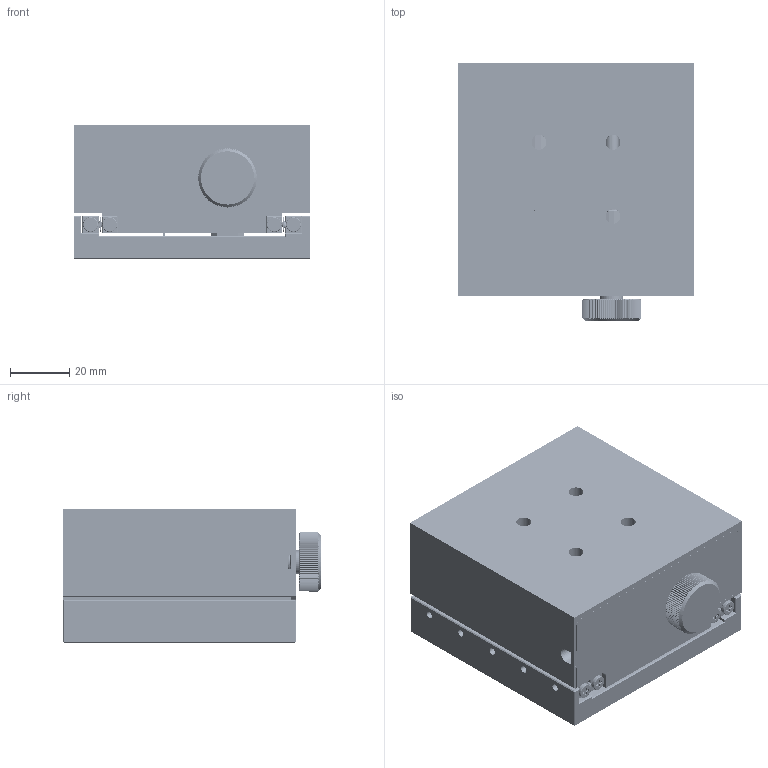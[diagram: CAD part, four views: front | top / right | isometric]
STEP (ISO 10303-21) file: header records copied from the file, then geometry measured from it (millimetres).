
FILE_DESCRIPTION((''),'2;1');
FILE_NAME('LMTS-15G_ASM','2026-01-09T16:58:08',('R&D'),(''),'CREO PARAMETRIC BY PTC INC, 2021063','CREO PARAMETRIC BY PTC INC, 2021063','');
FILE_SCHEMA(('CONFIG_CONTROL_DESIGN'));
Products named in the file (41): LMTS-15G-A2; LMTS-15G-A6; LMTS-15G-A5; LMTS-15G-A4_ASM; LMTS-15G-A3_ASM; LMTS-15G-A7; ISO7045-M2X3-4_8; LMTS-15G-A8; LMTS-15G-A1_ASM; LMTS-15G-B1; LMTS-15G-B2; LMTS-15G-B5; LMTS-15G-B6; LMTS-15G-B4_ASM; LMTS-15G-B8; LMTS-15G-B9; LMTS-15G-C3; LMTS-15G-C1_ASM; LMTS-15G-C5; LMTS-15G-C6; LMTS-15G-C7; LMTS-15G-C8; LMTS-15G-C4_ASM; LMTS-15G-C9; LMTS-15G-B3_ASM; LMTS-15G-D1; ISO14579-M2X6-8_8; LMTS-15G-D3; ISO2009-M2_5X5-5_8; LMTS-15G-D4; LMTS-15G-D5; LMTS-15G-D7; LMTS-15G-D8; LMTS-15G-D6_ASM; LMTS-15G-D9; LMTS-15G-D2; ISO7045-M2X4-4_8; LMTS-15G-A9_ASM; ISO14579-M3X8-8_8; ISO14579-M2X5-8_8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
Assembly tree (83 placements, depth 5):
  LMTS-15G_ASM
    LMTS-15G-A1_ASM
      LMTS-15G-A2
      LMTS-15G-A3_ASM  x2
        LMTS-15G-A4_ASM
          LMTS-15G-A6
          LMTS-15G-A5
      LMTS-15G-A7
      ISO7045-M2X3-4_8
      LMTS-15G-A8
    LMTS-15G-A9_ASM
      LMTS-15G-B1
      LMTS-15G-B2
      LMTS-15G-B3_ASM
        LMTS-15G-B4_ASM
          LMTS-15G-B5
          LMTS-15G-B6
        LMTS-15G-B8
        LMTS-15G-B9
        LMTS-15G-C1_ASM
          LMTS-15G-C3
        LMTS-15G-C4_ASM
          LMTS-15G-C5
          LMTS-15G-C6  x2
          LMTS-15G-C7
          LMTS-15G-C8
        LMTS-15G-C9
      LMTS-15G-D1  x2
      LMTS-15G-A3_ASM  x2
        LMTS-15G-A4_ASM
          LMTS-15G-A6
          LMTS-15G-A5
      ISO14579-M2X6-8_8  x10
      LMTS-15G-D3
      ISO2009-M2_5X5-5_8  x8
      LMTS-15G-D4
      LMTS-15G-D5
      LMTS-15G-D6_ASM
        LMTS-15G-D7
        LMTS-15G-D8
      LMTS-15G-D9
      LMTS-15G-D2  x2
      ISO7045-M2X4-4_8  x4
    ISO14579-M3X8-8_8  x14
    ISO7045-M2X3-4_8  x4
    ISO14579-M2X5-8_8  x2
Bounding box: 80 x 87 x 45 mm (x, y, z)
Volume: 216832.7 mm3; surface area: 100510.9 mm2
Topology: 69 solids, 69 shells, 3943 faces, 10620 edges, 6890 vertices
Faces by surface type: cylinder 1774, plane 1527, cone 352, bspline 154, torus 118, sphere 18
Entity records: 94911 total; most frequent: CARTESIAN_POINT 42965, ORIENTED_EDGE 11080, DIRECTION 10198, EDGE_CURVE 5540, AXIS2_PLACEMENT_3D 3833, VERTEX_POINT 3592, VECTOR 2532, LINE 2532
